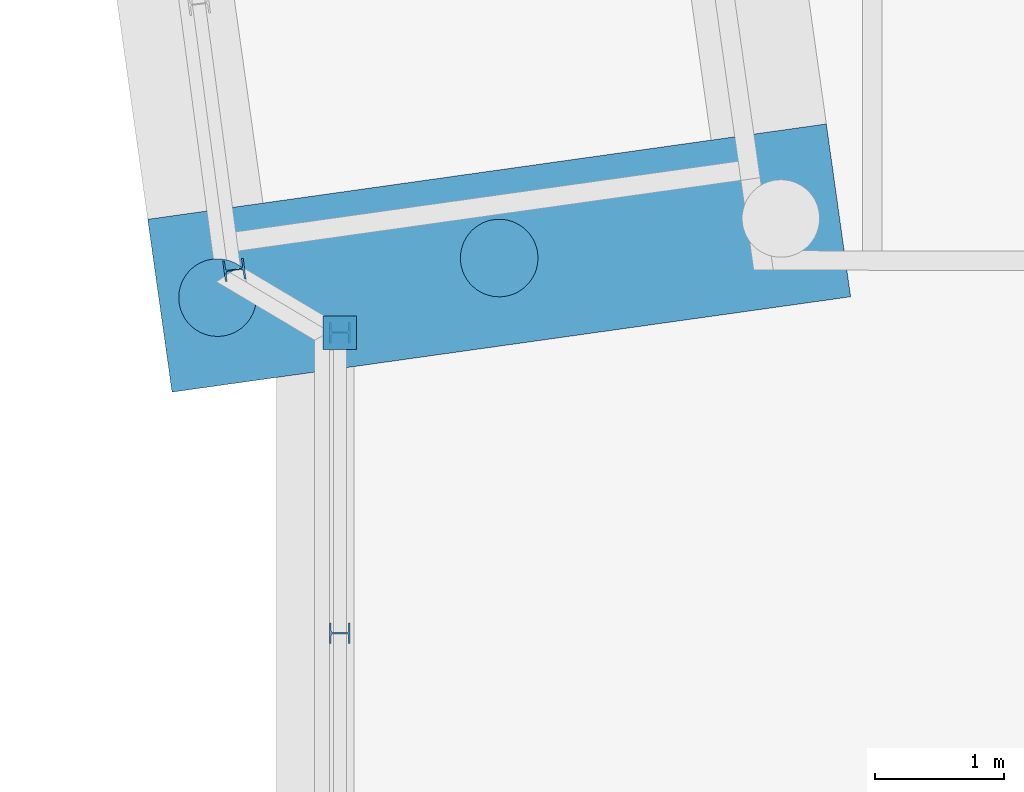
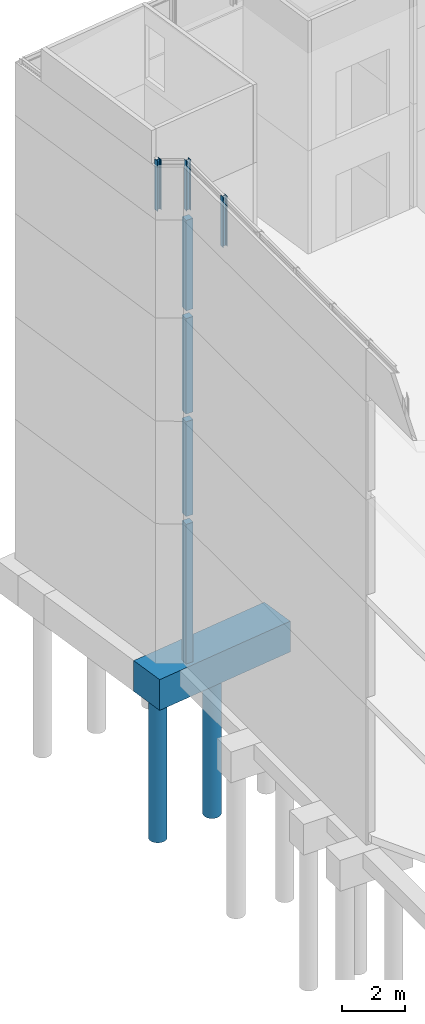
# One storey, part 17 of 82: 10 columns.
"""IFC2X3 building model written with IfcOpenShell, lengths in millimetres."""

from ifc_helpers import new_model, si_unit, frame, frame_2d, origin_with_axes, place, context, subcontext, project, spatial, polyline, rectangle, circle, i_section, outline, extrude, material, type_object, element, save


model = new_model("IFC2X3")

# Units and contexts
model_context = context("Model", 3, precision=1e-05, world=origin_with_axes())
body_context = subcontext(model_context, "Body", "Model", "MODEL_VIEW")
ifc_project = project(units=[si_unit("LENGTHUNIT", "METRE", prefix="MILLI"), si_unit("AREAUNIT", "SQUARE_METRE"), si_unit("VOLUMEUNIT", "CUBIC_METRE"), si_unit("MASSUNIT", "GRAM", prefix="KILO"), si_unit("TIMEUNIT", "SECOND"), si_unit("PLANEANGLEUNIT", "RADIAN"), si_unit("SOLIDANGLEUNIT", "STERADIAN"), si_unit("THERMODYNAMICTEMPERATUREUNIT", "DEGREE_CELSIUS"), si_unit("LUMINOUSINTENSITYUNIT", "LUMEN")], contexts=[model_context])

# Site, building, storey
site_placement = place(None, origin_with_axes())
site = spatial("IfcSite", under=ifc_project, at=site_placement, Name="Undefined", CompositionType="ELEMENT")
building_placement = place(site_placement, origin_with_axes())
building = spatial("IfcBuilding", under=site, at=building_placement, Name="Undefined", CompositionType="ELEMENT")
storey_placement = place(building_placement, origin_with_axes())
storey = spatial("IfcBuildingStorey", under=building, at=storey_placement, Name="Undefined", CompositionType="ELEMENT", Elevation=0.0)

# Columns
ifc_material_1 = material(Name="CONCRETE/C25/30")
column_type_1 = type_object("IfcColumnType", Name="260*260", PredefinedType="NOTDEFINED")
column_1_placement = place(storey_placement, frame((-3.22070263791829e-08, 18600.0001068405, 13330.0), z_axis=(0.0, 0.0, 1.0), x_axis=(1.0, 0.0, 0.0)))
element("IfcColumn", 1, at=column_1_placement, inside=storey, type_object=column_type_1, material=ifc_material_1, Name="POTEAU", ObjectType="260*260", context=body_context, shape_type="SweptSolid", body=[
    extrude(rectangle(XDim=260.0, YDim=260.0, at=frame_2d((5.17284206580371e-08, 4.49290382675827e-10), x_axis=(1.0, 0.0))), frame((0.0, 0.0, 3529.99999999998), z_axis=(0.0, -6.50000002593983e-08, -0.999999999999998), x_axis=(-2.77555756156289e-17, -1.0, 0.0)), (0.0, 0.0, 1.0), 3530.0),
])
column_2_placement = place(storey_placement, frame((-3.22070263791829e-08, 18600.0001068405, 9305.0), z_axis=(0.0, 0.0, 1.0), x_axis=(1.0, 0.0, 0.0)))
element("IfcColumn", 2, at=column_2_placement, inside=storey, type_object=column_type_1, material=ifc_material_1, Name="POTEAU", ObjectType="260*260", context=body_context, shape_type="SweptSolid", body=[
    extrude(rectangle(XDim=260.0, YDim=260.0, at=frame_2d((5.17284206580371e-08, 4.49290382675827e-10), x_axis=(1.0, 0.0))), frame((0.0, 0.0, 3725.0), z_axis=(0.0, -6.50000002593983e-08, -0.999999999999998), x_axis=(-2.77555756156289e-17, -1.0, 0.0)), (0.0, 0.0, 1.0), 3725.0),
])
column_3_placement = place(storey_placement, frame((-2.99114617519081e-08, 18600.000000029, 5300.0), z_axis=(0.0, 0.0, 1.0), x_axis=(1.0, 0.0, 0.0)))
element("IfcColumn", 3, at=column_3_placement, inside=storey, type_object=column_type_1, material=ifc_material_1, Name="POTEAU", ObjectType="260*260", context=body_context, shape_type="SweptSolid", body=[
    extrude(rectangle(XDim=260.0, YDim=260.0, at=frame_2d((5.17284206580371e-08, 4.49290382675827e-10), x_axis=(1.0, 0.0))), frame((0.0, 0.0001074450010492, 3705.0), z_axis=(0.0, -6.50000002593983e-08, -0.999999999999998), x_axis=(-2.77555756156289e-17, -1.0, 0.0)), (0.0, 0.0, 1.0), 3705.0),
])
column_4_placement = place(storey_placement, frame((-3.22070263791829e-08, 18600.0001068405, -449.999511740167), z_axis=(0.0, 0.0, 1.0), x_axis=(1.0, 0.0, 0.0)))
element("IfcColumn", 4, at=column_4_placement, inside=storey, type_object=column_type_1, material=ifc_material_1, Name="POTEAU", ObjectType="260*260", context=body_context, shape_type="SweptSolid", body=[
    extrude(rectangle(XDim=260.0, YDim=260.0, at=frame_2d((5.17284206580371e-08, 4.49290382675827e-10), x_axis=(1.0, 0.0))), frame((0.0, 0.0, 5449.9995117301), z_axis=(0.0, -6.50000002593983e-08, -0.999999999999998), x_axis=(-2.77555756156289e-17, -1.0, 0.0)), (0.0, 0.0, 1.0), 5450.0),
])
ifc_material_2 = material(Name="STEEL/S275JR")
column_type_2 = type_object("IfcColumnType", Name="HEB160", PredefinedType="NOTDEFINED")
column_5_placement = place(storey_placement, frame((-8.16617102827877e-08, 16275.0041653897, 17160.0), z_axis=(0.0, 0.0, 1.0), x_axis=(1.0, 0.0, 0.0)))
element("IfcColumn", 5, at=column_5_placement, inside=storey, type_object=column_type_2, material=ifc_material_2, Name="POTEAU", ObjectType="HEB160", context=body_context, shape_type="SweptSolid", body=[
    extrude(i_section(OverallWidth=160.0, OverallDepth=160.0, WebThickness=8.0, FlangeThickness=13.0, FilletRadius=15.0, at=frame_2d((5.17284206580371e-08, 4.49290382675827e-10), x_axis=(1.0, 0.0))), frame((0.0, 0.0, 1965.0), z_axis=(0.0, -6.50000002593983e-08, -0.999999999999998), x_axis=(-2.77555756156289e-17, -1.0, 0.0)), (0.0, 0.0, 1.0), 1965.0),
])
column_6_placement = place(storey_placement, frame((-816.300022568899, 19085.4601783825, 17160.0), z_axis=(0.0, 0.0, 1.0), x_axis=(1.0, 0.0, 0.0)))
element("IfcColumn", 6, at=column_6_placement, inside=storey, type_object=column_type_2, material=ifc_material_2, Name="POTEAU", ObjectType="HEB160", context=body_context, shape_type="SweptSolid", body=[
    extrude(i_section(OverallWidth=160.0, OverallDepth=160.0, WebThickness=8.0, FlangeThickness=13.0, FilletRadius=15.0, at=frame_2d((5.17284206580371e-08, 4.49290382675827e-10), x_axis=(1.0, 0.0))), frame((0.0, 0.0, 1964.99949079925), z_axis=(0.0, -6.50000002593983e-08, -0.999999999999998), x_axis=(0.132171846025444, -0.991226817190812, 0.0)), (0.0, 0.0, 1.0), 1965.0),
])
column_7_placement = place(storey_placement, frame((1.26300074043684e-06, 18599.999999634, 17160.0), z_axis=(0.0, 0.0, 1.0), x_axis=(1.0, 0.0, 0.0)))
element("IfcColumn", 7, at=column_7_placement, inside=storey, type_object=column_type_2, material=ifc_material_2, Name="POTEAU", ObjectType="HEB160", context=body_context, shape_type="SweptSolid", body=[
    extrude(i_section(OverallWidth=160.0, OverallDepth=160.0, WebThickness=8.0, FlangeThickness=13.0, FilletRadius=15.0, at=frame_2d((5.17284206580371e-08, 4.49290382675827e-10), x_axis=(1.0, 0.0))), frame((0.0, 0.0, 1965.0), z_axis=(0.0, -6.50000002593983e-08, -0.999999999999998), x_axis=(-2.77555756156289e-17, -1.0, 0.0)), (0.0, 0.0, 1.0), 1965.0),
])
ifc_material_3 = material(Name="CONCRETE/C30/37")
column_type_3 = type_object("IfcColumnType", Name="1200*1350", PredefinedType="NOTDEFINED")
column_8_placement = place(storey_placement, frame((-1485.96564200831, 19476.7257022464, -1050.00146578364), z_axis=(0.0, 0.0, 1.0), x_axis=(0.13917310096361, -0.990268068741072, 0.0)))
element("IfcColumn", 8, at=column_8_placement, inside=storey, type_object=column_type_3, material=ifc_material_3, Name="SEMELLE", ObjectType="1200*1350", context=body_context, shape_type="SweptSolid", body=[
    extrude(outline(polyline([(5.17284206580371e-08, 4.49290382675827e-10), (1349.99572754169, -7.94079824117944e-09), (1349.99987791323, 5299.99999999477), (-7.73813590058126e-05, 5300.0004882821), (5.17284206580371e-08, 4.49290382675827e-10)])), frame((0.0, 0.0, -600.0), z_axis=(0.0, 0.0, 1.0), x_axis=(1.0, 0.0, 0.0)), (0.0, 0.0, 1.0), 1200.0),
])
column_type_4 = type_object("IfcColumnType", Name="D600", PredefinedType="NOTDEFINED")
column_9_placement = place(storey_placement, frame((1232.18654875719, 19177.104596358, -7175.0), z_axis=(0.0, 0.0, 1.0), x_axis=(1.0, 0.0, 0.0)))
element("IfcColumn", 9, at=column_9_placement, inside=storey, type_object=column_type_4, material=ifc_material_1, Name="PIEU", ObjectType="D600", context=body_context, shape_type="SweptSolid", body=[
    extrude(circle(Radius=300.0, at=frame_2d((5.17284206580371e-08, 4.49290382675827e-10), x_axis=(1.0, 0.0))), frame((0.0, 0.0, 5750.0), z_axis=(0.0, -6.50000002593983e-08, -0.999999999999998), x_axis=(-0.99121555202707, -0.132256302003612, 0.0)), (0.0, 0.0, 1.0), 5750.0),
])
column_10_placement = place(storey_placement, frame((-946.403465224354, 18870.9247667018, -7175.0), z_axis=(0.0, 0.0, 1.0), x_axis=(1.0, 0.0, 0.0)))
element("IfcColumn", 10, at=column_10_placement, inside=storey, type_object=column_type_4, material=ifc_material_1, Name="PIEU", ObjectType="D600", context=body_context, shape_type="SweptSolid", body=[
    extrude(circle(Radius=300.0, at=frame_2d((5.17284206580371e-08, 4.49290382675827e-10), x_axis=(1.0, 0.0))), frame((0.0, 0.0, 5750.0), z_axis=(0.0, -6.50000002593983e-08, -0.999999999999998), x_axis=(0.991215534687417, 0.132256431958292, 0.0)), (0.0, 0.0, 1.0), 5750.0),
])

save(model, "model.ifc")
